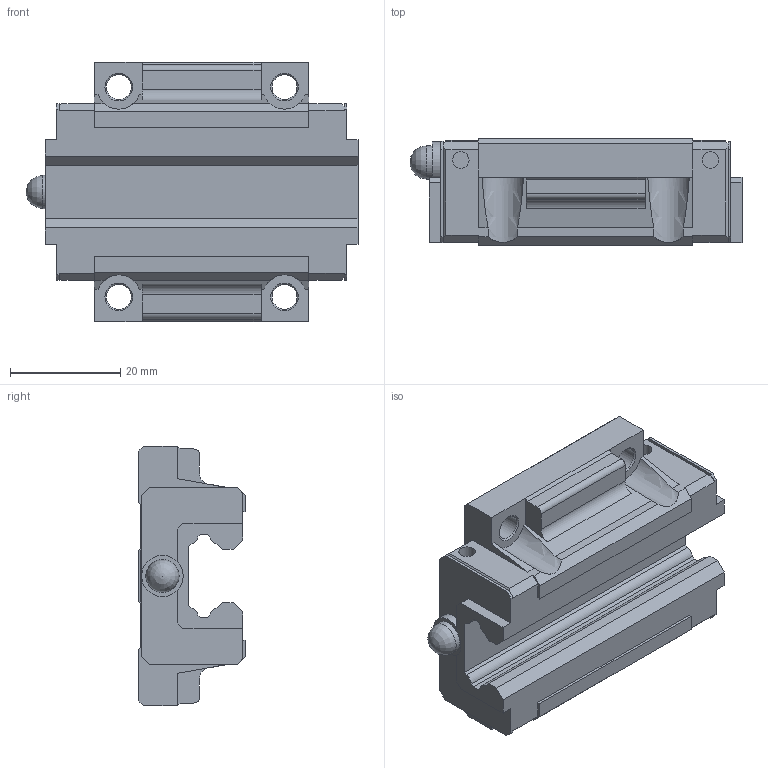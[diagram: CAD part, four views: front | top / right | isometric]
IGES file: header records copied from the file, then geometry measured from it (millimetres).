
Start section: Data from Parasolid IGES Translator 26.0.171, Copyright(c) 2006 Siemens PLM Software. All Rights Reserved.
Global section: file name: HSR15C1SS(GK) BLOCK(1PB1021B).igs; native system: By Siemens PLM Incorporated; preprocessor: XPlus GENERIC/IGES 26.0.171; author: Noname; organization: Noname; date: 20240521.045500; units: millimetre
Bounding box: 60.1 x 19.3 x 47 mm (x, y, z)
Surface area: 10070.1 mm2 (no closed solid volume)
Topology: 0 solids, 0 shells, 177 faces, 975 edges, 945 vertices
Faces by surface type: extrusion 133, revolution 44
